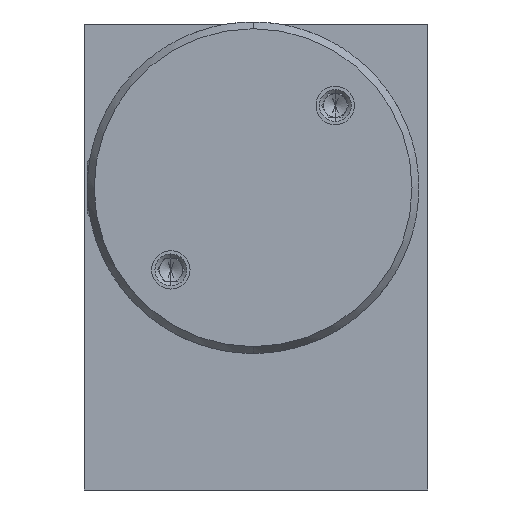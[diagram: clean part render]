
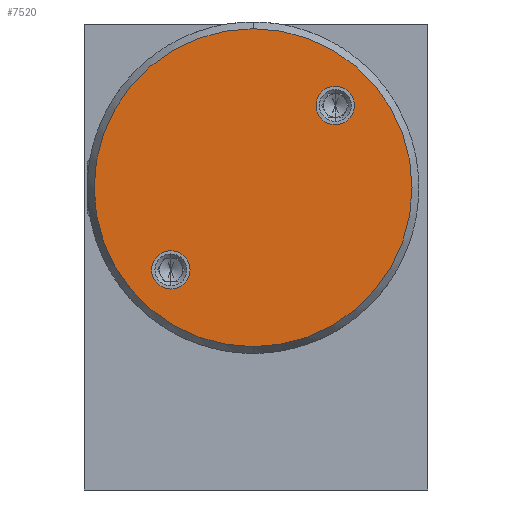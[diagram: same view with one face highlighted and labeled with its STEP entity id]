
A CAD part, left-side view. The second image highlights one B-rep face of the part: STEP entity #7520.
In plain terms, the highlighted planar face has unit normal (-1, 0, 0).
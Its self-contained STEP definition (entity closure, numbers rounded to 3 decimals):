
#906 = EDGE_CURVE ( 'NONE', #7307, #28520, #7063, .T. ) ;
#1058 = CIRCLE ( 'NONE', #15823, 13.673 ) ;
#1352 = EDGE_CURVE ( 'NONE', #31406, #20613, #1058, .T. ) ;
#1715 = DIRECTION ( 'NONE',  ( 0., 0., 1. ) ) ;
#2158 = CARTESIAN_POINT ( 'NONE',  ( -37., 0.25, 6. ) ) ;
#2389 = EDGE_CURVE ( 'NONE', #28520, #7307, #15586, .T. ) ;
#2429 = CIRCLE ( 'NONE', #19699, 13.673 ) ;
#2856 = DIRECTION ( 'NONE',  ( -1., 0., 0. ) ) ;
#2872 = CARTESIAN_POINT ( 'NONE',  ( -37., 7.321, -1.071 ) ) ;
#3228 = ORIENTED_EDGE ( 'NONE', *, *, #32151, .F. ) ;
#3786 = ORIENTED_EDGE ( 'NONE', *, *, #1352, .T. ) ;
#4091 = FACE_BOUND ( 'NONE', #20057, .T. ) ;
#4195 = EDGE_CURVE ( 'NONE', #20613, #31406, #2429, .T. ) ;
#4834 = CARTESIAN_POINT ( 'NONE',  ( -37., 7.321, -2.721 ) ) ;
#5389 = DIRECTION ( 'NONE',  ( 0., 0., 1. ) ) ;
#5494 = CIRCLE ( 'NONE', #24881, 1.65 ) ;
#7063 = CIRCLE ( 'NONE', #12595, 1.65 ) ;
#7307 = VERTEX_POINT ( 'NONE', #9636 ) ;
#7520 = ADVANCED_FACE ( 'NONE', ( #29512, #4091, #10074 ), #7841, .T. ) ;
#7556 = CARTESIAN_POINT ( 'NONE',  ( -37., 0.25, 19.673 ) ) ;
#7841 = PLANE ( 'NONE',  #11667 ) ;
#8033 = VERTEX_POINT ( 'NONE', #15827 ) ;
#9636 = CARTESIAN_POINT ( 'NONE',  ( -37., -6.821, 14.721 ) ) ;
#9690 = ORIENTED_EDGE ( 'NONE', *, *, #32974, .F. ) ;
#9900 = DIRECTION ( 'NONE',  ( 0., 0., 1. ) ) ;
#10074 = FACE_BOUND ( 'NONE', #10151, .T. ) ;
#10151 = EDGE_LOOP ( 'NONE', ( #25948, #28188 ) ) ;
#11667 = AXIS2_PLACEMENT_3D ( 'NONE', #18056, #2856, #20617 ) ;
#12595 = AXIS2_PLACEMENT_3D ( 'NONE', #15426, #14521, #9900 ) ;
#14521 = DIRECTION ( 'NONE',  ( -1., 0., 0. ) ) ;
#14612 = DIRECTION ( 'NONE',  ( -1., 0., 0. ) ) ;
#14784 = DIRECTION ( 'NONE',  ( -1., 0., 0. ) ) ;
#15426 = CARTESIAN_POINT ( 'NONE',  ( -37., -6.821, 13.071 ) ) ;
#15496 = ORIENTED_EDGE ( 'NONE', *, *, #4195, .T. ) ;
#15586 = CIRCLE ( 'NONE', #21993, 1.65 ) ;
#15823 = AXIS2_PLACEMENT_3D ( 'NONE', #2158, #14784, #22354 ) ;
#15827 = CARTESIAN_POINT ( 'NONE',  ( -37., 7.321, 0.579 ) ) ;
#16920 = DIRECTION ( 'NONE',  ( -1., 0., 0. ) ) ;
#18056 = CARTESIAN_POINT ( 'NONE',  ( -37., 0.25, 6. ) ) ;
#19699 = AXIS2_PLACEMENT_3D ( 'NONE', #29846, #14612, #32414 ) ;
#20057 = EDGE_LOOP ( 'NONE', ( #9690, #3228 ) ) ;
#20613 = VERTEX_POINT ( 'NONE', #21326 ) ;
#20617 = DIRECTION ( 'NONE',  ( 0., 0., 1. ) ) ;
#20638 = DIRECTION ( 'NONE',  ( -1., 0., 0. ) ) ;
#21326 = CARTESIAN_POINT ( 'NONE',  ( -37., 0.25, -7.673 ) ) ;
#21742 = AXIS2_PLACEMENT_3D ( 'NONE', #2872, #20638, #5389 ) ;
#21993 = AXIS2_PLACEMENT_3D ( 'NONE', #28329, #25779, #23258 ) ;
#22265 = VERTEX_POINT ( 'NONE', #4834 ) ;
#22354 = DIRECTION ( 'NONE',  ( 0., 0., 1. ) ) ;
#23258 = DIRECTION ( 'NONE',  ( 0., 0., 1. ) ) ;
#24025 = EDGE_LOOP ( 'NONE', ( #15496, #3786 ) ) ;
#24881 = AXIS2_PLACEMENT_3D ( 'NONE', #32135, #16920, #1715 ) ;
#25779 = DIRECTION ( 'NONE',  ( -1., 0., 0. ) ) ;
#25948 = ORIENTED_EDGE ( 'NONE', *, *, #906, .F. ) ;
#27662 = CIRCLE ( 'NONE', #21742, 1.65 ) ;
#28188 = ORIENTED_EDGE ( 'NONE', *, *, #2389, .F. ) ;
#28329 = CARTESIAN_POINT ( 'NONE',  ( -37., -6.821, 13.071 ) ) ;
#28520 = VERTEX_POINT ( 'NONE', #31095 ) ;
#29512 = FACE_OUTER_BOUND ( 'NONE', #24025, .T. ) ;
#29846 = CARTESIAN_POINT ( 'NONE',  ( -37., 0.25, 6. ) ) ;
#31095 = CARTESIAN_POINT ( 'NONE',  ( -37., -6.821, 11.421 ) ) ;
#31406 = VERTEX_POINT ( 'NONE', #7556 ) ;
#32135 = CARTESIAN_POINT ( 'NONE',  ( -37., 7.321, -1.071 ) ) ;
#32151 = EDGE_CURVE ( 'NONE', #22265, #8033, #5494, .T. ) ;
#32414 = DIRECTION ( 'NONE',  ( 0., 0., 1. ) ) ;
#32974 = EDGE_CURVE ( 'NONE', #8033, #22265, #27662, .T. ) ;
